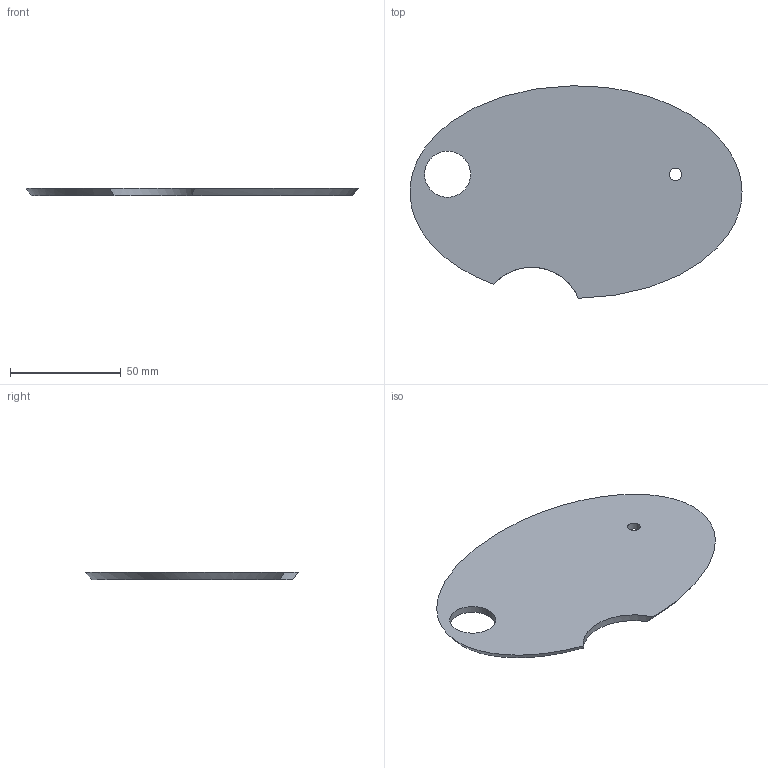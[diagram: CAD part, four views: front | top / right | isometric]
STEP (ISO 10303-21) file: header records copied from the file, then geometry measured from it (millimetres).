
FILE_DESCRIPTION(('Open CASCADE Model'),'2;1');
FILE_NAME('Open CASCADE Shape Model','2026-09-13T15:28:56',('Author'),( 'Open CASCADE'),'Open CASCADE STEP processor 7.9','build123d', 'Unknown');
FILE_SCHEMA(('AUTOMOTIVE_DESIGN { 1 0 10303 214 1 1 1 1 }'));
Length unit declared in the file: millimetre
Products named in the file (2): =>[0:1:1:2]; COMPOUND
Assembly tree (1 placements, depth 2):
  =>[0:1:1:2]
    COMPOUND
Bounding box: 149.96 x 95.98 x 3.2 mm (x, y, z)
Volume: 32571.1 mm3; surface area: 22164.2 mm2
Topology: 1 solids, 1 shells, 6 faces, 14 edges, 10 vertices
Faces by surface type: cylinder 3, plane 2, bspline 1
Full cylindrical faces by diameter (mm): 5.6 x1, 20.8 x1
Entity records: 468 total; most frequent: CARTESIAN_POINT 149, DIRECTION 56, ORIENTED_EDGE 28, PCURVE 28, DEFINITIONAL_REPRESENTATION 28, AXIS2_PLACEMENT_3D 17, EDGE_CURVE 14, SURFACE_CURVE 12
